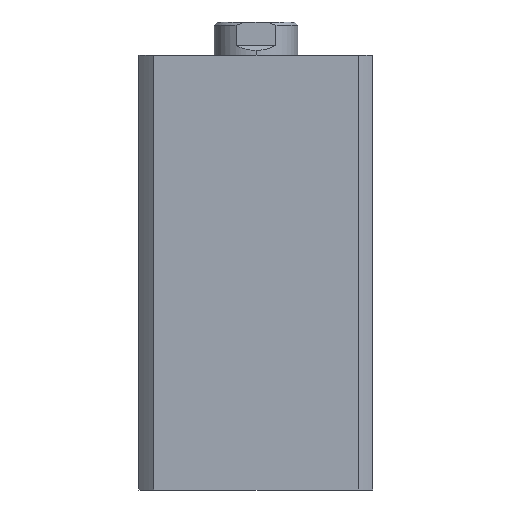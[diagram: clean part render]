
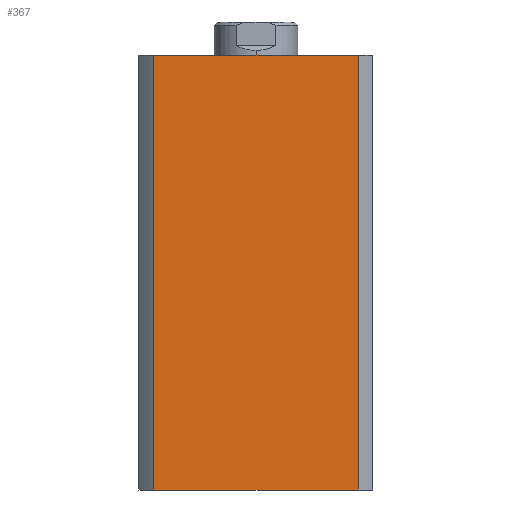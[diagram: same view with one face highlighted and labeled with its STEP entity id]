
A CAD part, left-side view. The second image highlights one B-rep face of the part: STEP entity #367.
In plain terms, the highlighted planar face has unit normal (-1, 0, 0).
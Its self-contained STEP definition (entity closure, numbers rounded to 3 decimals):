
#101 = EDGE_CURVE ( 'NONE', #5015, #4870, #3002, .T. ) ;
#133 = EDGE_CURVE ( 'NONE', #4984, #5015, #2960, .T. ) ;
#135 = EDGE_CURVE ( 'NONE', #4987, #4870, #2956, .T. ) ;
#136 = EDGE_CURVE ( 'NONE', #4984, #4987, #2955, .T. ) ;
#295 = EDGE_LOOP ( 'NONE', ( #3738, #3739, #3740, #3741 ) ) ;
#367 = ADVANCED_FACE ( 'NONE', ( #1272 ), #1833, .F. ) ;
#1272 = FACE_OUTER_BOUND ( 'NONE', #295, .T. ) ;
#1828 = CARTESIAN_POINT ( 'NONE',  ( -35., 0., 130. ) ) ;
#1833 = PLANE ( 'NONE',  #4110 ) ;
#1836 = DIRECTION ( 'NONE',  ( 1., 0., 0. ) ) ;
#1837 = DIRECTION ( 'NONE',  ( 0., 1., 0. ) ) ;
#2669 = CARTESIAN_POINT ( 'NONE',  ( -35., 0., 0. ) ) ;
#2670 = DIRECTION ( 'NONE',  ( 0., -1., 0. ) ) ;
#2952 = VECTOR ( 'NONE', #4203, 1000. ) ;
#2954 = VECTOR ( 'NONE', #4160, 1000. ) ;
#2955 = LINE ( 'NONE', #4204, #2952 ) ;
#2956 = LINE ( 'NONE', #4165, #2954 ) ;
#2957 = VECTOR ( 'NONE', #4210, 1000. ) ;
#2960 = LINE ( 'NONE', #4211, #2957 ) ;
#2998 = VECTOR ( 'NONE', #2670, 1000. ) ;
#3002 = LINE ( 'NONE', #2669, #2998 ) ;
#3738 = ORIENTED_EDGE ( 'NONE', *, *, #101, .T. ) ;
#3739 = ORIENTED_EDGE ( 'NONE', *, *, #135, .F. ) ;
#3740 = ORIENTED_EDGE ( 'NONE', *, *, #136, .F. ) ;
#3741 = ORIENTED_EDGE ( 'NONE', *, *, #133, .T. ) ;
#4110 = AXIS2_PLACEMENT_3D ( 'NONE', #1828, #1836, #1837 ) ;
#4160 = DIRECTION ( 'NONE',  ( 0., 0., -1. ) ) ;
#4165 = CARTESIAN_POINT ( 'NONE',  ( -35., -30.615, 130. ) ) ;
#4203 = DIRECTION ( 'NONE',  ( 0., -1., 0. ) ) ;
#4204 = CARTESIAN_POINT ( 'NONE',  ( -35., 0., 130. ) ) ;
#4210 = DIRECTION ( 'NONE',  ( 0., 0., -1. ) ) ;
#4211 = CARTESIAN_POINT ( 'NONE',  ( -35., 30.615, 130. ) ) ;
#4371 = CARTESIAN_POINT ( 'NONE',  ( -35., -30.615, 0. ) ) ;
#4485 = CARTESIAN_POINT ( 'NONE',  ( -35., 30.615, 130. ) ) ;
#4488 = CARTESIAN_POINT ( 'NONE',  ( -35., -30.615, 130. ) ) ;
#4516 = CARTESIAN_POINT ( 'NONE',  ( -35., 30.615, 0. ) ) ;
#4870 = VERTEX_POINT ( 'NONE', #4371 ) ;
#4984 = VERTEX_POINT ( 'NONE', #4485 ) ;
#4987 = VERTEX_POINT ( 'NONE', #4488 ) ;
#5015 = VERTEX_POINT ( 'NONE', #4516 ) ;
